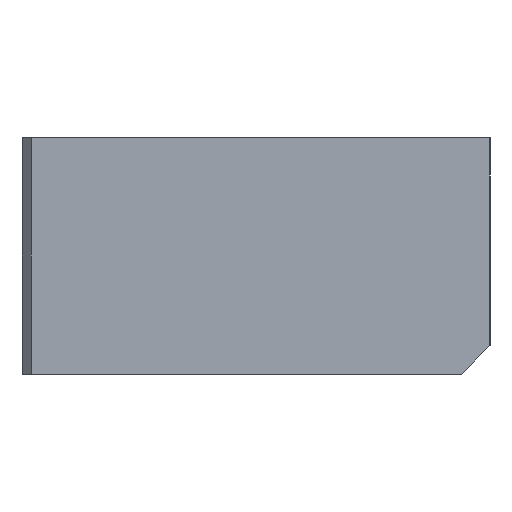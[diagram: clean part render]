
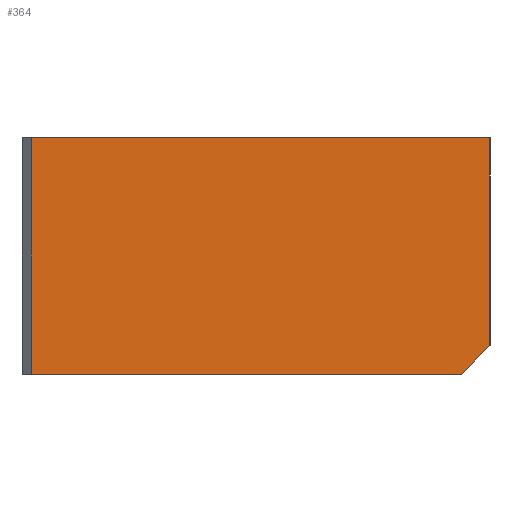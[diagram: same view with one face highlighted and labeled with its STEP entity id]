
A CAD part, left-side view. The second image highlights one B-rep face of the part: STEP entity #364.
In plain terms, the highlighted planar face has unit normal (-1, 0, 0).
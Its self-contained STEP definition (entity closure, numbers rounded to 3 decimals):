
#23=DIRECTION('',(0.,-1.,0.));
#24=VECTOR('',#23,45.5);
#25=CARTESIAN_POINT('',(-80.,23.75,-12.5));
#26=LINE('',#25,#24);
#80=DIRECTION('',(0.,-1.,0.));
#81=VECTOR('',#80,48.5);
#82=CARTESIAN_POINT('',(-80.,23.75,12.5));
#83=LINE('',#82,#81);
#117=DIRECTION('',(0.,0.,-1.));
#118=VECTOR('',#117,25.);
#119=CARTESIAN_POINT('',(-80.,23.75,12.5));
#120=LINE('',#119,#118);
#121=DIRECTION('',(0.,-0.707,0.707));
#122=VECTOR('',#121,4.243);
#123=CARTESIAN_POINT('',(-80.,-21.75,-12.5));
#124=LINE('',#123,#122);
#137=DIRECTION('',(0.,0.,1.));
#138=VECTOR('',#137,22.);
#139=CARTESIAN_POINT('',(-80.,-24.75,-9.5));
#140=LINE('',#139,#138);
#141=CARTESIAN_POINT('',(-80.,-24.75,12.5));
#143=VERTEX_POINT('',#141);
#161=CARTESIAN_POINT('',(-80.,-21.75,-12.5));
#162=CARTESIAN_POINT('',(-80.,-24.75,-9.5));
#163=VERTEX_POINT('',#161);
#164=VERTEX_POINT('',#162);
#177=CARTESIAN_POINT('',(-80.,23.75,-12.5));
#179=VERTEX_POINT('',#177);
#183=CARTESIAN_POINT('',(-80.,23.75,12.5));
#184=VERTEX_POINT('',#183);
#350=CARTESIAN_POINT('',(-80.,24.75,-12.5));
#351=DIRECTION('',(-1.,0.,0.));
#352=DIRECTION('',(0.,-1.,0.));
#353=AXIS2_PLACEMENT_3D('',#350,#351,#352);
#354=PLANE('',#353);
#356=ORIENTED_EDGE('',*,*,#355,.F.);
#357=ORIENTED_EDGE('',*,*,#281,.T.);
#359=ORIENTED_EDGE('',*,*,#358,.F.);
#360=ORIENTED_EDGE('',*,*,#341,.F.);
#361=ORIENTED_EDGE('',*,*,#196,.F.);
#362=EDGE_LOOP('',(#356,#357,#359,#360,#361));
#363=FACE_OUTER_BOUND('',#362,.F.);
#364=ADVANCED_FACE('',(#363),#354,.T.);
#196=EDGE_CURVE('',#179,#163,#26,.T.);
#281=EDGE_CURVE('',#184,#143,#83,.T.);
#341=EDGE_CURVE('',#163,#164,#124,.T.);
#355=EDGE_CURVE('',#184,#179,#120,.T.);
#358=EDGE_CURVE('',#164,#143,#140,.T.);
